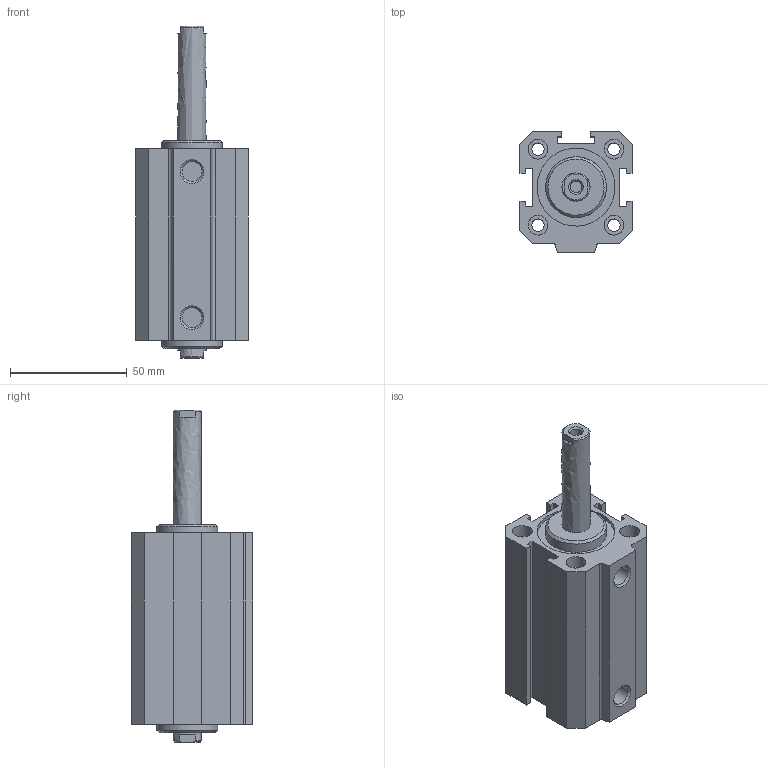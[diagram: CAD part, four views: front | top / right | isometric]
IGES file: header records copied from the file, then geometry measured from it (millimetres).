
Global section: file name: 1514_32_0045; native system: Autodesk Inventor 2014; preprocessor: unknown; author: A. Manieri; date: 20160824.113537; units: millimetre
Bounding box: 48 x 52 x 142 mm (x, y, z)
Volume: 137195.8 mm3; surface area: 47758.4 mm2
Topology: 2 solids, 2 shells, 106 faces, 276 edges, 194 vertices
Faces by surface type: bspline 106
